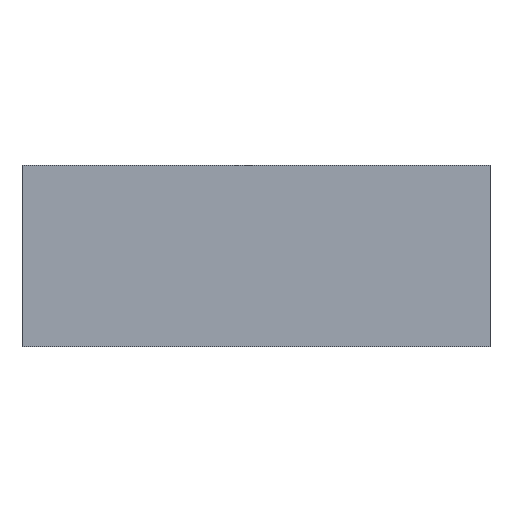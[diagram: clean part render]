
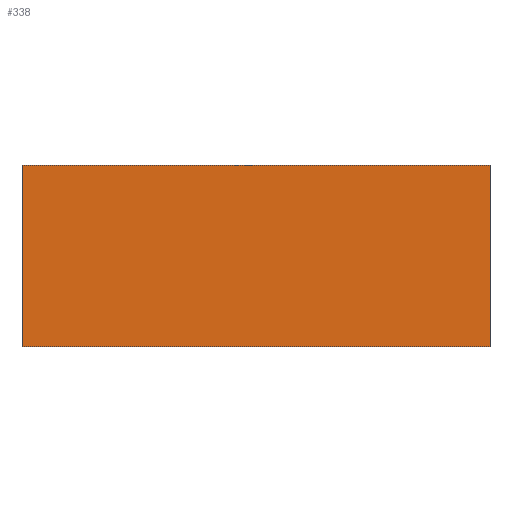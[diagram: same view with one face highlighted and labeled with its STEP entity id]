
A CAD part, top view. The second image highlights one B-rep face of the part: STEP entity #338.
In plain terms, the highlighted planar face has unit normal (0, 0, 1).
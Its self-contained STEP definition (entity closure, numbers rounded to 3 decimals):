
#24 = VERTEX_POINT('',#25);
#25 = CARTESIAN_POINT('',(0.,0.,38.1));
#32 = PLANE('',#33);
#33 = AXIS2_PLACEMENT_3D('',#34,#35,#36);
#34 = CARTESIAN_POINT('',(0.,0.,0.));
#35 = DIRECTION('',(1.,0.,0.));
#36 = DIRECTION('',(0.,0.,1.));
#44 = PLANE('',#45);
#45 = AXIS2_PLACEMENT_3D('',#46,#47,#48);
#46 = CARTESIAN_POINT('',(0.,0.,0.));
#47 = DIRECTION('',(0.,1.,0.));
#48 = DIRECTION('',(0.,0.,1.));
#85 = VERTEX_POINT('',#86);
#86 = CARTESIAN_POINT('',(0.,196.85,38.1));
#100 = PLANE('',#101);
#101 = AXIS2_PLACEMENT_3D('',#102,#103,#104);
#102 = CARTESIAN_POINT('',(0.,196.85,0.));
#103 = DIRECTION('',(0.,1.,0.));
#104 = DIRECTION('',(0.,0.,1.));
#112 = EDGE_CURVE('',#24,#85,#113,.T.);
#113 = SURFACE_CURVE('',#114,(#118,#125),.PCURVE_S1.);
#114 = LINE('',#115,#116);
#115 = CARTESIAN_POINT('',(0.,0.,38.1));
#116 = VECTOR('',#117,1.);
#117 = DIRECTION('',(0.,1.,0.));
#118 = PCURVE('',#32,#119);
#119 = DEFINITIONAL_REPRESENTATION('',(#120),#124);
#120 = LINE('',#121,#122);
#121 = CARTESIAN_POINT('',(38.1,0.));
#122 = VECTOR('',#123,1.);
#123 = DIRECTION('',(0.,-1.));
#124 = ( GEOMETRIC_REPRESENTATION_CONTEXT(2) 
PARAMETRIC_REPRESENTATION_CONTEXT() REPRESENTATION_CONTEXT('2D SPACE',''
  ) );
#125 = PCURVE('',#126,#131);
#126 = PLANE('',#127);
#127 = AXIS2_PLACEMENT_3D('',#128,#129,#130);
#128 = CARTESIAN_POINT('',(0.,0.,38.1));
#129 = DIRECTION('',(0.,0.,1.));
#130 = DIRECTION('',(1.,0.,0.));
#131 = DEFINITIONAL_REPRESENTATION('',(#132),#136);
#132 = LINE('',#133,#134);
#133 = CARTESIAN_POINT('',(0.,0.));
#134 = VECTOR('',#135,1.);
#135 = DIRECTION('',(0.,1.));
#136 = ( GEOMETRIC_REPRESENTATION_CONTEXT(2) 
PARAMETRIC_REPRESENTATION_CONTEXT() REPRESENTATION_CONTEXT('2D SPACE',''
  ) );
#144 = VERTEX_POINT('',#145);
#145 = CARTESIAN_POINT('',(508.,0.,38.1));
#152 = PLANE('',#153);
#153 = AXIS2_PLACEMENT_3D('',#154,#155,#156);
#154 = CARTESIAN_POINT('',(508.,0.,0.));
#155 = DIRECTION('',(1.,0.,0.));
#156 = DIRECTION('',(0.,0.,1.));
#195 = VERTEX_POINT('',#196);
#196 = CARTESIAN_POINT('',(508.,196.85,38.1));
#217 = EDGE_CURVE('',#144,#195,#218,.T.);
#218 = SURFACE_CURVE('',#219,(#223,#230),.PCURVE_S1.);
#219 = LINE('',#220,#221);
#220 = CARTESIAN_POINT('',(508.,0.,38.1));
#221 = VECTOR('',#222,1.);
#222 = DIRECTION('',(0.,1.,0.));
#223 = PCURVE('',#152,#224);
#224 = DEFINITIONAL_REPRESENTATION('',(#225),#229);
#225 = LINE('',#226,#227);
#226 = CARTESIAN_POINT('',(38.1,0.));
#227 = VECTOR('',#228,1.);
#228 = DIRECTION('',(0.,-1.));
#229 = ( GEOMETRIC_REPRESENTATION_CONTEXT(2) 
PARAMETRIC_REPRESENTATION_CONTEXT() REPRESENTATION_CONTEXT('2D SPACE',''
  ) );
#230 = PCURVE('',#126,#231);
#231 = DEFINITIONAL_REPRESENTATION('',(#232),#236);
#232 = LINE('',#233,#234);
#233 = CARTESIAN_POINT('',(508.,0.));
#234 = VECTOR('',#235,1.);
#235 = DIRECTION('',(0.,1.));
#236 = ( GEOMETRIC_REPRESENTATION_CONTEXT(2) 
PARAMETRIC_REPRESENTATION_CONTEXT() REPRESENTATION_CONTEXT('2D SPACE',''
  ) );
#263 = EDGE_CURVE('',#24,#144,#264,.T.);
#264 = SURFACE_CURVE('',#265,(#269,#276),.PCURVE_S1.);
#265 = LINE('',#266,#267);
#266 = CARTESIAN_POINT('',(0.,0.,38.1));
#267 = VECTOR('',#268,1.);
#268 = DIRECTION('',(1.,0.,0.));
#269 = PCURVE('',#44,#270);
#270 = DEFINITIONAL_REPRESENTATION('',(#271),#275);
#271 = LINE('',#272,#273);
#272 = CARTESIAN_POINT('',(38.1,0.));
#273 = VECTOR('',#274,1.);
#274 = DIRECTION('',(0.,1.));
#275 = ( GEOMETRIC_REPRESENTATION_CONTEXT(2) 
PARAMETRIC_REPRESENTATION_CONTEXT() REPRESENTATION_CONTEXT('2D SPACE',''
  ) );
#276 = PCURVE('',#126,#277);
#277 = DEFINITIONAL_REPRESENTATION('',(#278),#282);
#278 = LINE('',#279,#280);
#279 = CARTESIAN_POINT('',(0.,0.));
#280 = VECTOR('',#281,1.);
#281 = DIRECTION('',(1.,0.));
#282 = ( GEOMETRIC_REPRESENTATION_CONTEXT(2) 
PARAMETRIC_REPRESENTATION_CONTEXT() REPRESENTATION_CONTEXT('2D SPACE',''
  ) );
#310 = EDGE_CURVE('',#85,#195,#311,.T.);
#311 = SURFACE_CURVE('',#312,(#316,#323),.PCURVE_S1.);
#312 = LINE('',#313,#314);
#313 = CARTESIAN_POINT('',(0.,196.85,38.1));
#314 = VECTOR('',#315,1.);
#315 = DIRECTION('',(1.,0.,0.));
#316 = PCURVE('',#100,#317);
#317 = DEFINITIONAL_REPRESENTATION('',(#318),#322);
#318 = LINE('',#319,#320);
#319 = CARTESIAN_POINT('',(38.1,0.));
#320 = VECTOR('',#321,1.);
#321 = DIRECTION('',(0.,1.));
#322 = ( GEOMETRIC_REPRESENTATION_CONTEXT(2) 
PARAMETRIC_REPRESENTATION_CONTEXT() REPRESENTATION_CONTEXT('2D SPACE',''
  ) );
#323 = PCURVE('',#126,#324);
#324 = DEFINITIONAL_REPRESENTATION('',(#325),#329);
#325 = LINE('',#326,#327);
#326 = CARTESIAN_POINT('',(0.,196.85));
#327 = VECTOR('',#328,1.);
#328 = DIRECTION('',(1.,0.));
#329 = ( GEOMETRIC_REPRESENTATION_CONTEXT(2) 
PARAMETRIC_REPRESENTATION_CONTEXT() REPRESENTATION_CONTEXT('2D SPACE',''
  ) );
#338 = ADVANCED_FACE('',(#339),#126,.T.);
#339 = FACE_BOUND('',#340,.T.);
#340 = EDGE_LOOP('',(#341,#342,#343,#344));
#341 = ORIENTED_EDGE('',*,*,#112,.F.);
#342 = ORIENTED_EDGE('',*,*,#263,.T.);
#343 = ORIENTED_EDGE('',*,*,#217,.T.);
#344 = ORIENTED_EDGE('',*,*,#310,.F.);
